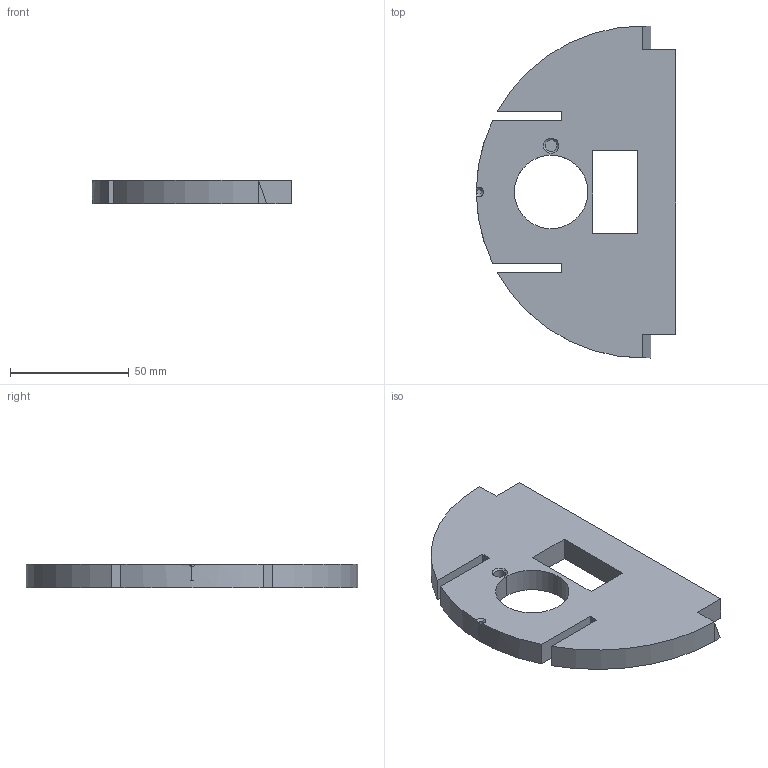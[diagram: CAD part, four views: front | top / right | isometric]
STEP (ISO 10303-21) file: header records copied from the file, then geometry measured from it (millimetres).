
FILE_DESCRIPTION(('STEP AP214'),'1');
FILE_NAME('tmp0.step','2026-08-22T12:33:34',(' '),(' '),'Spatial InterOp 3D',' ',' ');
FILE_SCHEMA(('AUTOMOTIVE_DESIGN { 1 0 10303 214 1 1 1 1 }'));
Length unit declared in the file: millimetre
Products named in the file (1): 1
Bounding box: 84 x 140 x 10 mm (x, y, z)
Volume: 77474.6 mm3; surface area: 22753.9 mm2
Topology: 1 solids, 1 shells, 38 faces, 99 edges, 64 vertices
Faces by surface type: plane 22, cylinder 12, cone 4
Entity records: 1245 total; most frequent: CARTESIAN_POINT 245, DIRECTION 208, ORIENTED_EDGE 200, EDGE_CURVE 100, AXIS2_PLACEMENT_3D 71, LINE 66, VECTOR 66, VERTEX_POINT 64
